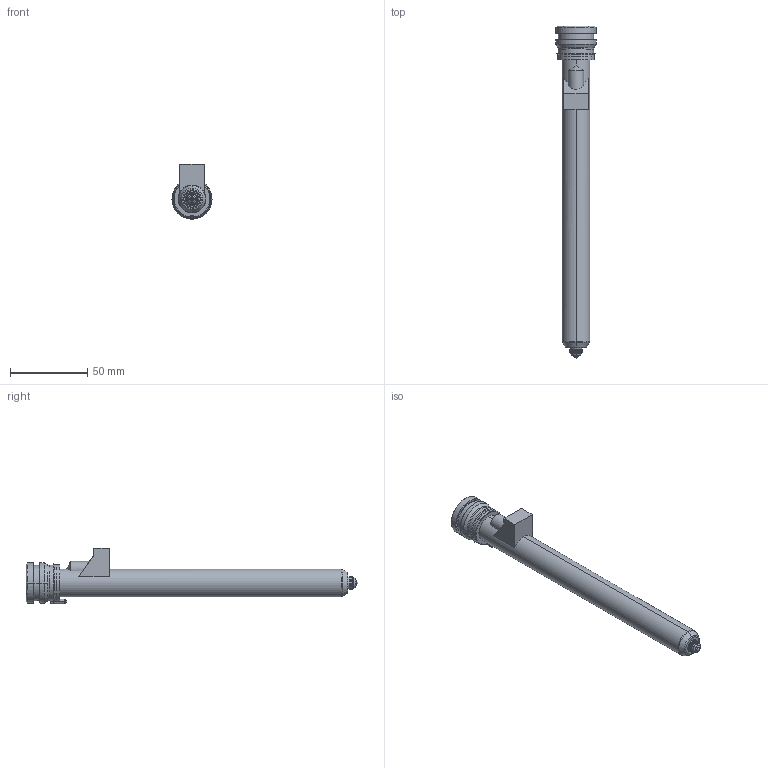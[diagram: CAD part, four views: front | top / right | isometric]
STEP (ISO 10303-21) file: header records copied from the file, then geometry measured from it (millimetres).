
FILE_DESCRIPTION((''),'2;1');
FILE_NAME('TH18197_5-M-1B15-PK-JG','2023-12-14T',('umhib'),('Thermoplay S.p.A.'),'PRO/ENGINEER BY PARAMETRIC TECHNOLOGY CORPORATION, 2017170','PRO/ENGINEER BY PARAMETRIC TECHNOLOGY CORPORATION, 2017170','');
FILE_SCHEMA(('CONFIG_CONTROL_DESIGN'));
Length unit declared in the file: millimetre
Products named in the file (1): TH18197_5-M-1B15-PK-JG
Bounding box: 26 x 215.5 x 36.1 mm (x, y, z)
Volume: 42328 mm3; surface area: 31761.3 mm2
Topology: 1 solids, 2 shells, 393 faces, 1003 edges, 615 vertices
Faces by surface type: cylinder 149, plane 87, cone 64, torus 58, bspline 22, sphere 11, extrusion 2
Entity records: 16869 total; most frequent: CARTESIAN_POINT 5186, DIRECTION 2010, ORIENTED_EDGE 1980, EDGE_CURVE 992, AXIS2_PLACEMENT_3D 810, VERTEX_POINT 615, CIRCLE 440, EDGE_LOOP 416
